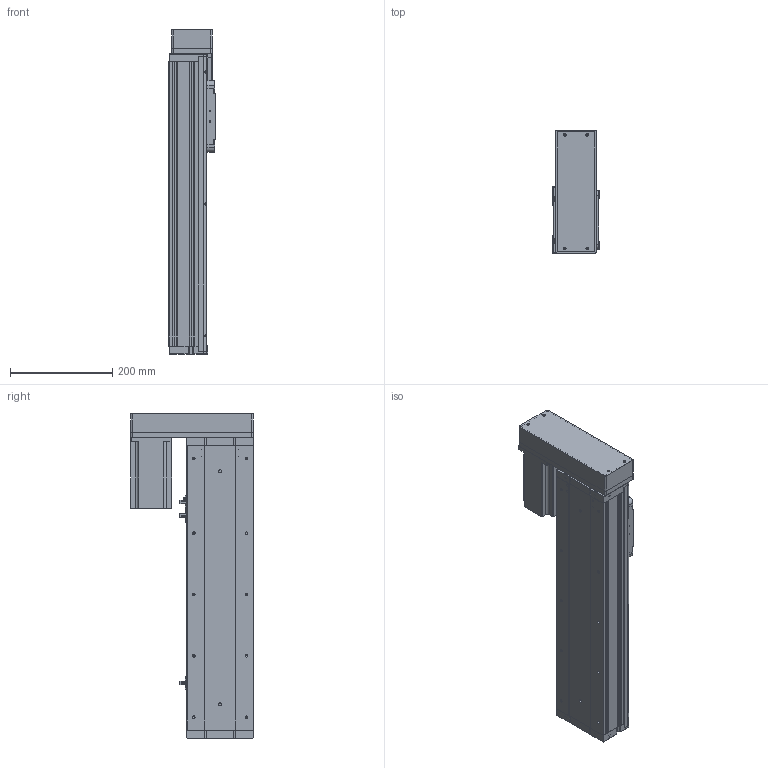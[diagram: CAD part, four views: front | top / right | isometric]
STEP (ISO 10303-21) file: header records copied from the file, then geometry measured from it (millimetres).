
FILE_DESCRIPTION (( 'STEP AP214' ), '1' );
FILE_NAME ('KSD130S-P2010-ML-CR-S350.STEP', '2019-09-24T05:40:51', ( '微软用户' ), ( '微软中国' ), 'SwSTEP 2.0', 'SolidWorks 2014', '' );
FILE_SCHEMA (( 'AUTOMOTIVE_DESIGN' ));
Length unit declared in the file: millimetre
Products named in the file (14): 130宽模组保护罩左右折; 130宽模组马达安装板连板左右折丝杆; 感应片130宽全封闭; U倰嫖萇EEㄜSX672; 130遵裔啣揤啣1; 130宽盖板全封闭-350行程; 130宽滚珠螺姆安装板1防护罩; 130宽滚珠螺姆安装板1; 130宽侧板全封闭-350行程; 130宽全封闭马达安装板丝杠; 130宽全封闭端盖丝杠; 130宽底板全封闭丝杠-350行程; 台达ECMA－C20807AS伺服电机; KSD130S-P2010-ML-CR-S350
Assembly tree (17 placements, depth 2):
  KSD130S-P2010-ML-CR-S350
    130宽底板全封闭丝杠-350行程
    130宽全封闭端盖丝杠
    130宽全封闭马达安装板丝杠
    130宽侧板全封闭-350行程  x2
    130宽滚珠螺姆安装板1
    130宽滚珠螺姆安装板1防护罩
    130宽盖板全封闭-350行程
    130遵裔啣揤啣1  x2
    U倰嫖萇EEㄜSX672  x3
    感应片130宽全封闭
    130宽模组马达安装板连板左右折丝杆
    台达ECMA－C20807AS伺服电机
    130宽模组保护罩左右折
Bounding box: 90 x 240 x 634.5 mm (x, y, z)
Volume: 2902139.6 mm3; surface area: 869719.1 mm2
Topology: 18 solids, 18 shells, 1402 faces, 3828 edges, 2429 vertices
Faces by surface type: plane 611, cylinder 608, cone 183
Entity records: 42330 total; most frequent: DIRECTION 6435, CARTESIAN_POINT 6385, ORIENTED_EDGE 5998, EDGE_CURVE 2999, AXIS2_PLACEMENT_3D 2295, VERTEX_POINT 1959, VECTOR 1845, LINE 1845
